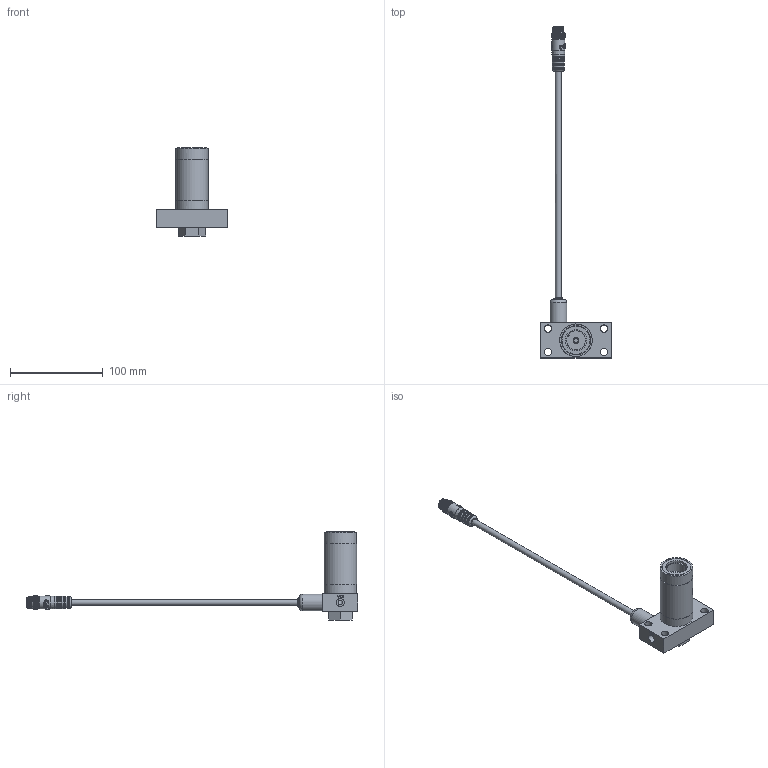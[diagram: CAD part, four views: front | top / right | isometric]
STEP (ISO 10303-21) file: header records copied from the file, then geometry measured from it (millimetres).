
FILE_DESCRIPTION(/* description */ ('ASSY,BODY,VF,IA,SXKR3,NHP_0002709064'),/* implementation_level */ '2;1');
FILE_NAME(/* name */ 'X:\ASSY,BODY,VF,IA,SXKR3,NHP_0002709064.stp',/* time_stamp */ '2021-07-07T14:01:06-04:00',/* author */ ('Simon.Britton'),/* organization */ (''),/* preprocessor_version */ 'ST-DEVELOPER v17',/* originating_system */ 'Autodesk Inventor 2019',/* authorisation */ '');
FILE_SCHEMA (('AUTOMOTIVE_DESIGN { 1 0 10303 214 3 1 1 }'));
Length unit declared in the file: centimetre
Products named in the file (1): ASSY,BODY,VF,IA,SXKR3,NHP_0002709064
Bounding box: 76.2 x 358.79 x 95.12 mm (x, y, z)
Volume: 112503 mm3; surface area: 60666.3 mm2
Topology: 1 solids, 69 shells, 3730 faces, 8728 edges, 5182 vertices
Faces by surface type: bspline 2433, cylinder 655, plane 566, cone 44, torus 23, sphere 9
Full cylindrical faces by diameter (mm): 1 x5, 1.05 x5, 1.25 x10, 1.35 x5, 1.6 x10, 1.8 x5, 1.85 x5, 2 x1, 2.7 x1, 2.997 x2, 3.175 x2, 3.251 x1, 4.366 x1, 4.496 x4, 4.763 x5, 4.8 x3, 6.35 x3, 6.4 x1, 7.938 x4, 7.95 x3, 8.731 x2, 9.4 x1, 9.7 x2, 10.6 x2, 10.9 x1, 12 x4, 12.7 x1, 13.31 x1, 13.716 x1, 14 x1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
Entity records: 247502 total; most frequent: CARTESIAN_POINT 168590, ORIENTED_EDGE 17414, DIRECTION 12603, EDGE_CURVE 8707, AXIS2_PLACEMENT_3D 5517, VERTEX_POINT 5178, CIRCLE 4166, EDGE_LOOP 3878
